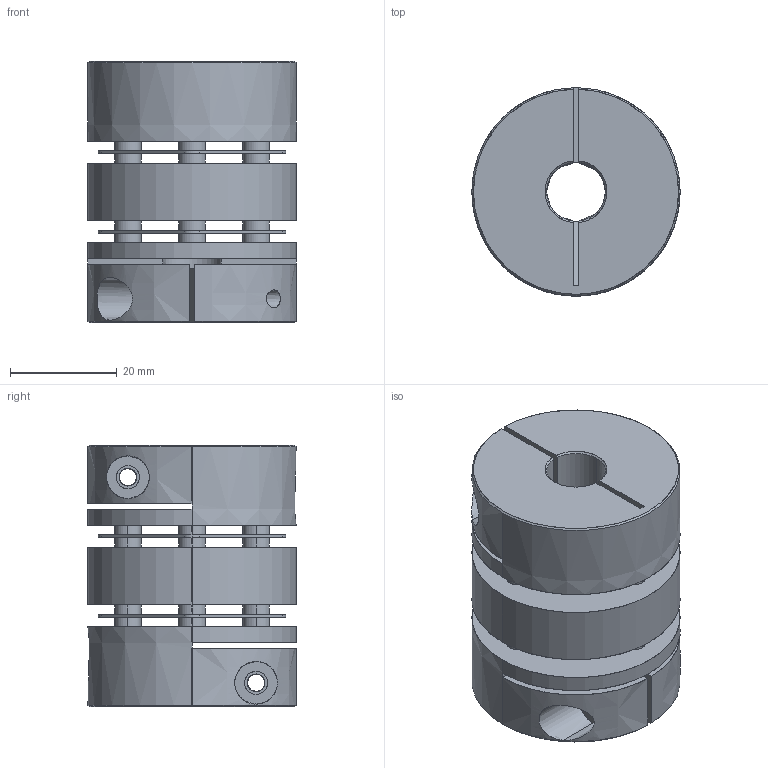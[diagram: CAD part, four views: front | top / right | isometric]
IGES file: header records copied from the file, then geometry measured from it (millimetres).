
Start section: SolidWorks IGES file using analytic representation for surfaces
Bounding box: 39 x 39 x 49 mm (x, y, z)
Surface area: 18811.4 mm2 (no closed solid volume)
Topology: 0 solids, 0 shells, 130 faces, 3048 edges, 3048 vertices
Faces by surface type: revolution 90, bspline 40
